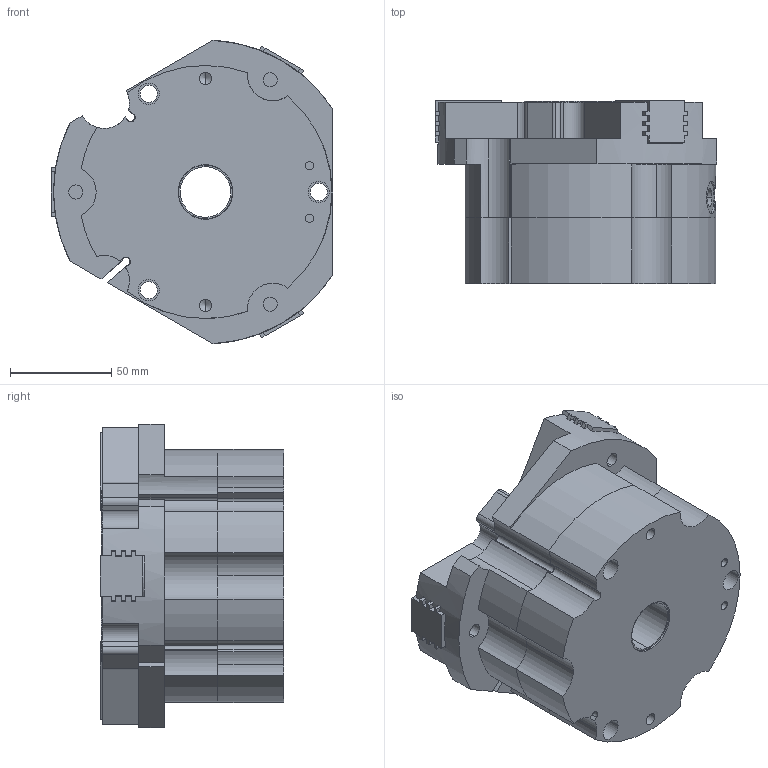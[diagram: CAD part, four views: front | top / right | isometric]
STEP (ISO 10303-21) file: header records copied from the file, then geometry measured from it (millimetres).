
FILE_DESCRIPTION (( 'STEP AP214' ), '1' );
FILE_NAME ('THB-125A-1-IS.STEP', '2021-01-18T02:49:24', ( '' ), ( '' ), 'SwSTEP 2.0', 'SolidWorks 2016', '' );
FILE_SCHEMA (( 'AUTOMOTIVE_DESIGN' ));
Length unit declared in the file: millimetre
Products named in the file (6): THB-125A-1-IS-01; THB-125A-1-IS-04; THB-125A-1-IS-03; THB-125A-1-IS; THB-125A-1-IS-02; THB-125A-1-IS-05
Assembly tree (7 placements, depth 2):
  THB-125A-1-IS
    THB-125A-1-IS-01
    THB-125A-1-IS-02  x3
    THB-125A-1-IS-03
    THB-125A-1-IS-04
    THB-125A-1-IS-05
Bounding box: 139.25 x 90.5 x 149.81 mm (x, y, z)
Volume: 935050.6 mm3; surface area: 166021.9 mm2
Topology: 7 solids, 8 shells, 507 faces, 1385 edges, 892 vertices
Faces by surface type: plane 256, cylinder 189, cone 62
Entity records: 13709 total; most frequent: CARTESIAN_POINT 2394, DIRECTION 2385, ORIENTED_EDGE 2186, EDGE_CURVE 1093, AXIS2_PLACEMENT_3D 883, VERTEX_POINT 720, VECTOR 619, LINE 619
